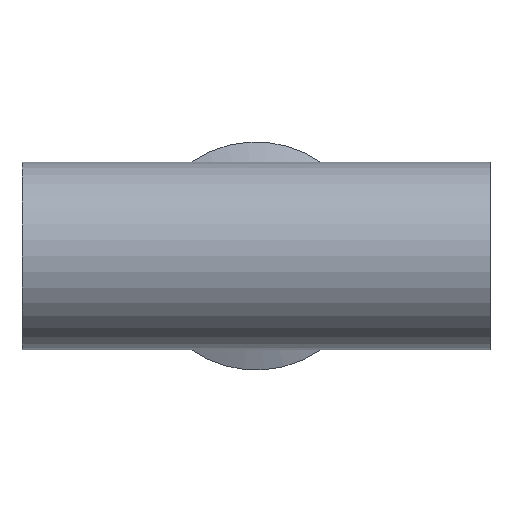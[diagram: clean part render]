
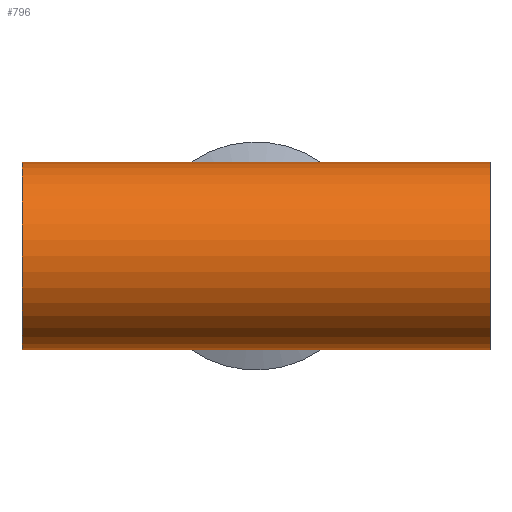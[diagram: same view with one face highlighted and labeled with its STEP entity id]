
A CAD part, front view. The second image highlights one B-rep face of the part: STEP entity #796.
In plain terms, the highlighted cylindrical face has radius 31.75 mm (diameter 63.5 mm), a partial arc.
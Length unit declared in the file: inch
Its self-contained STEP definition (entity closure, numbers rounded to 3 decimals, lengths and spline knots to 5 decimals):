
#2 = CARTESIAN_POINT ( 'NONE',  ( 3.125, 0., 0. ) ) ;
#30 = ORIENTED_EDGE ( 'NONE', *, *, #102, .T. ) ;
#46 = LINE ( 'NONE', #79, #459 ) ;
#47 = CARTESIAN_POINT ( 'NONE',  ( 3.125, 0., -1.25 ) ) ;
#67 = DIRECTION ( 'NONE',  ( -1., 0., 0. ) ) ;
#79 = CARTESIAN_POINT ( 'NONE',  ( 3.125, 0., -1.25 ) ) ;
#90 = CIRCLE ( 'NONE', #1112, 1.25 ) ;
#102 = EDGE_CURVE ( 'NONE', #571, #855, #474, .T. ) ;
#105 = CARTESIAN_POINT ( 'NONE',  ( 3.125, 0., 0. ) ) ;
#108 = CARTESIAN_POINT ( 'NONE',  ( -3.125, 0., -1.25 ) ) ;
#118 = DIRECTION ( 'NONE',  ( -1., 0., 0. ) ) ;
#169 = VERTEX_POINT ( 'NONE', #1079 ) ;
#196 = CARTESIAN_POINT ( 'NONE',  ( 3.125, 0., 1.25 ) ) ;
#223 = EDGE_LOOP ( 'NONE', ( #966, #1057, #744, #30, #238, #874 ) ) ;
#238 = ORIENTED_EDGE ( 'NONE', *, *, #766, .T. ) ;
#264 = VECTOR ( 'NONE', #531, 39.37008 ) ;
#267 = DIRECTION ( 'NONE',  ( 0., 0., 1. ) ) ;
#344 = DIRECTION ( 'NONE',  ( 1., 0., 0. ) ) ;
#378 = EDGE_CURVE ( 'NONE', #169, #1099, #46, .T. ) ;
#419 = CIRCLE ( 'NONE', #540, 1.25 ) ;
#422 = DIRECTION ( 'NONE',  ( 0., 0., -1. ) ) ;
#459 = VECTOR ( 'NONE', #67, 39.37008 ) ;
#474 = LINE ( 'NONE', #196, #264 ) ;
#493 = AXIS2_PLACEMENT_3D ( 'NONE', #105, #118, #267 ) ;
#507 = CARTESIAN_POINT ( 'NONE',  ( -3.125, 0., 0. ) ) ;
#528 = CARTESIAN_POINT ( 'NONE',  ( 3.125, 0., -1.25 ) ) ;
#530 = CARTESIAN_POINT ( 'NONE',  ( 3.125, 0., 1.25 ) ) ;
#531 = DIRECTION ( 'NONE',  ( -1., 0., 0. ) ) ;
#540 = AXIS2_PLACEMENT_3D ( 'NONE', #507, #892, #815 ) ;
#571 = VERTEX_POINT ( 'NONE', #764 ) ;
#608 = CARTESIAN_POINT ( 'NONE',  ( -3.125, 0., 1.25 ) ) ;
#626 = DIRECTION ( 'NONE',  ( -1., 0., 0. ) ) ;
#675 = EDGE_CURVE ( 'NONE', #928, #571, #747, .T. ) ;
#742 = EDGE_CURVE ( 'NONE', #748, #169, #1115, .T. ) ;
#744 = ORIENTED_EDGE ( 'NONE', *, *, #675, .T. ) ;
#747 = LINE ( 'NONE', #761, #955 ) ;
#748 = VERTEX_POINT ( 'NONE', #528 ) ;
#761 = CARTESIAN_POINT ( 'NONE',  ( 3.125, 0., 1.25 ) ) ;
#764 = CARTESIAN_POINT ( 'NONE',  ( 0., 0., 1.25 ) ) ;
#766 = EDGE_CURVE ( 'NONE', #855, #1099, #419, .T. ) ;
#796 = ADVANCED_FACE ( 'NONE', ( #927 ), #1045, .T. ) ;
#815 = DIRECTION ( 'NONE',  ( 0., 0., -1. ) ) ;
#855 = VERTEX_POINT ( 'NONE', #608 ) ;
#872 = VECTOR ( 'NONE', #1012, 39.37008 ) ;
#874 = ORIENTED_EDGE ( 'NONE', *, *, #378, .F. ) ;
#892 = DIRECTION ( 'NONE',  ( 1., 0., 0. ) ) ;
#920 = EDGE_CURVE ( 'NONE', #928, #748, #90, .T. ) ;
#927 = FACE_OUTER_BOUND ( 'NONE', #223, .T. ) ;
#928 = VERTEX_POINT ( 'NONE', #530 ) ;
#955 = VECTOR ( 'NONE', #626, 39.37008 ) ;
#966 = ORIENTED_EDGE ( 'NONE', *, *, #742, .F. ) ;
#1012 = DIRECTION ( 'NONE',  ( -1., 0., 0. ) ) ;
#1045 = CYLINDRICAL_SURFACE ( 'NONE', #493, 1.25 ) ;
#1057 = ORIENTED_EDGE ( 'NONE', *, *, #920, .F. ) ;
#1079 = CARTESIAN_POINT ( 'NONE',  ( 0., 0., -1.25 ) ) ;
#1099 = VERTEX_POINT ( 'NONE', #108 ) ;
#1112 = AXIS2_PLACEMENT_3D ( 'NONE', #2, #344, #422 ) ;
#1115 = LINE ( 'NONE', #47, #872 ) ;
